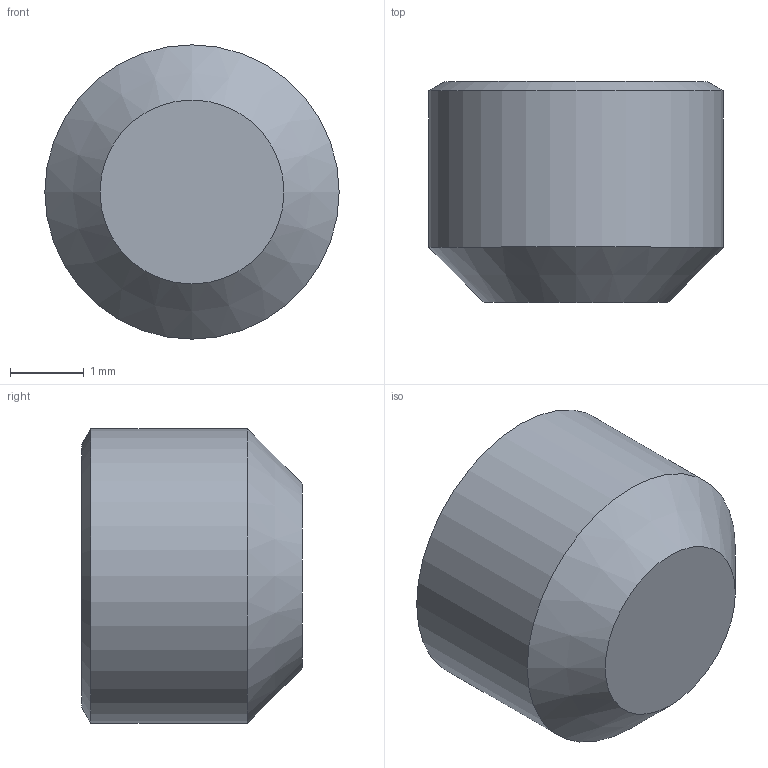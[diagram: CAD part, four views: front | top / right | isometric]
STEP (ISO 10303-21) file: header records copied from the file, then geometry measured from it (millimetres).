
FILE_DESCRIPTION(/* description */ (''),/* implementation_level */ '2;1');
FILE_NAME(/* name */ 'C:\Users\D\Documents\Inventor\各種小物\JIS\止めねじ\平先\M4\M4x3.stp',/* time_stamp */ '2022-06-23T14:24:19+09:00',/* author */ ('D'),/* organization */ (''),/* preprocessor_version */ 'ST-DEVELOPER v18',/* originating_system */ 'Autodesk Inventor 2020',/* authorisation */ '');
FILE_SCHEMA (('AUTOMOTIVE_DESIGN { 1 0 10303 214 3 1 1 }'));
Length unit declared in the file: millimetre
Products named in the file (1): M1.6x2
Bounding box: 4 x 3 x 4 mm (x, y, z)
Volume: 28.3 mm3; surface area: 66.7 mm2
Topology: 1 solids, 1 shells, 12 faces, 28 edges, 18 vertices
Faces by surface type: plane 8, cone 3, cylinder 1
Full cylindrical faces by diameter (mm): 4 x1
Entity records: 369 total; most frequent: CARTESIAN_POINT 72, ORIENTED_EDGE 54, DIRECTION 50, EDGE_CURVE 27, VERTEX_POINT 18, AXIS2_PLACEMENT_3D 17, LINE 16, VECTOR 16
